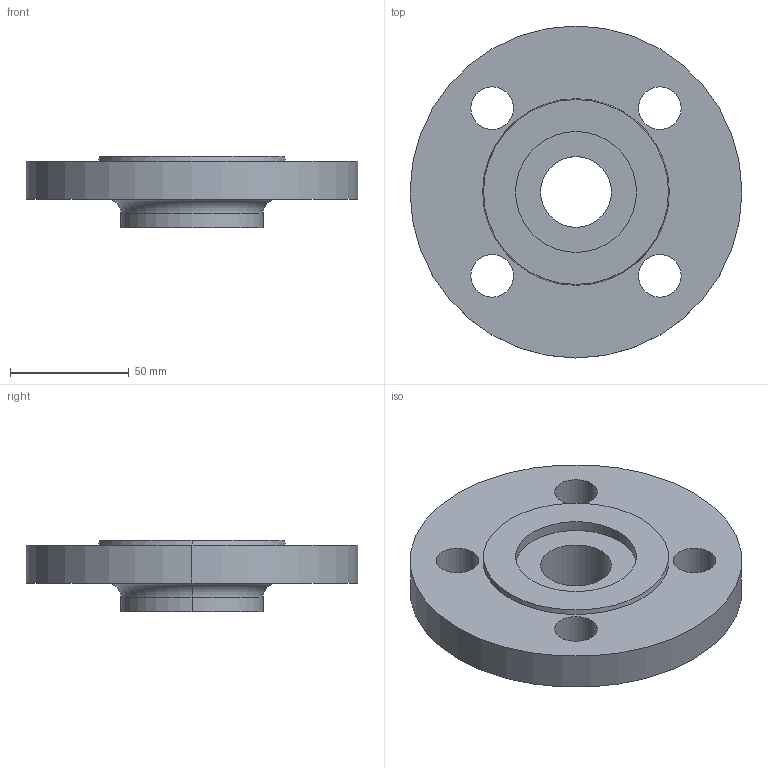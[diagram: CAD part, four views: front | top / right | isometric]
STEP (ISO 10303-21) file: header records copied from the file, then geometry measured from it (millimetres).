
FILE_DESCRIPTION (( 'STEP AP214' ), '1' );
FILE_NAME ('PN40 DN32 Type 13 - Type G Face.STEP', '2018-12-29T23:52:59', ( '' ), ( '' ), 'SwSTEP 2.0', 'SolidWorks 2019', '' );
FILE_SCHEMA (( 'AUTOMOTIVE_DESIGN' ));
Length unit declared in the file: millimetre
Products named in the file (1): PN40 DN32 Type 13 - Type G Face
Bounding box: 140 x 140 x 30 mm (x, y, z)
Volume: 248088.9 mm3; surface area: 43326.7 mm2
Topology: 1 solids, 1 shells, 25 faces, 58 edges, 38 vertices
Faces by surface type: cylinder 16, plane 5, torus 2, cone 2
Entity records: 790 total; most frequent: DIRECTION 150, CARTESIAN_POINT 122, ORIENTED_EDGE 116, AXIS2_PLACEMENT_3D 66, EDGE_CURVE 58, CIRCLE 40, EDGE_LOOP 38, VERTEX_POINT 38
